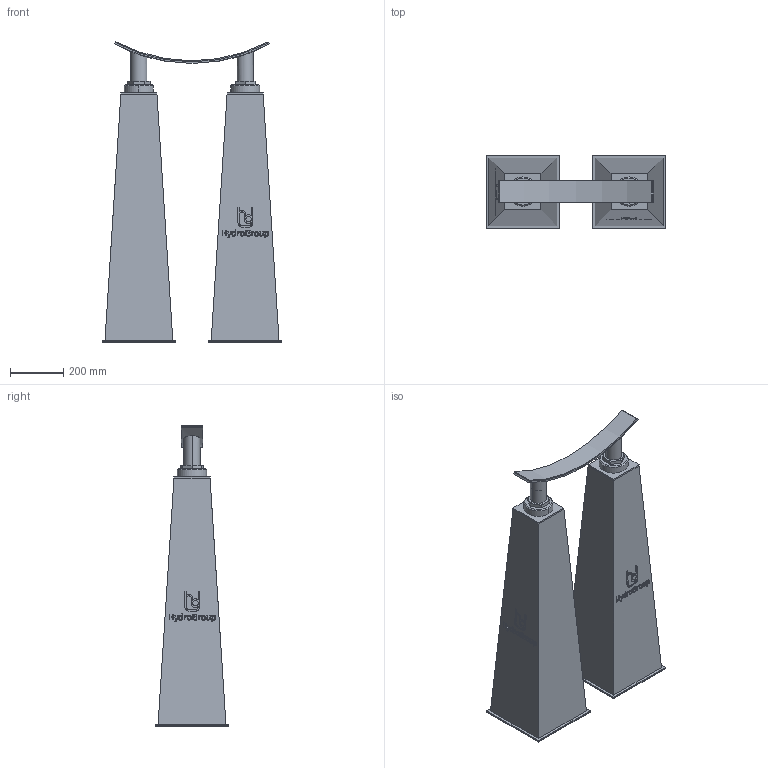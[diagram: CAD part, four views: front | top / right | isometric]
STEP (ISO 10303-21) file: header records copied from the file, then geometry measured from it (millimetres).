
FILE_DESCRIPTION(('STEP AP214'),'1');
FILE_NAME('RSRFE-III-DUO_DN1200.stp','2018-06-29T07:51:48',(' '),(' '),'Spatial InterOp 3D',' ',' ');
FILE_SCHEMA(('automotive_design'));
Length unit declared in the file: millimetre
Products named in the file (10): 1; 2; 3; 4; 5; 6; 7; 8; 9; 10
Bounding box: 676.01 x 276.01 x 1132.92 mm (x, y, z)
Volume: 77487383.1 mm3; surface area: 2413299.6 mm2
Topology: 10 solids, 11 shells, 415 faces, 1028 edges, 672 vertices
Faces by surface type: plane 270, cylinder 67, extrusion 48, cone 30
Entity records: 17283 total; most frequent: CARTESIAN_POINT 3993, ORIENTED_EDGE 2056, DIRECTION 1854, EDGE_CURVE 1028, VECTOR 796, LINE 748, VERTEX_POINT 672, AXIS2_PLACEMENT_3D 529
